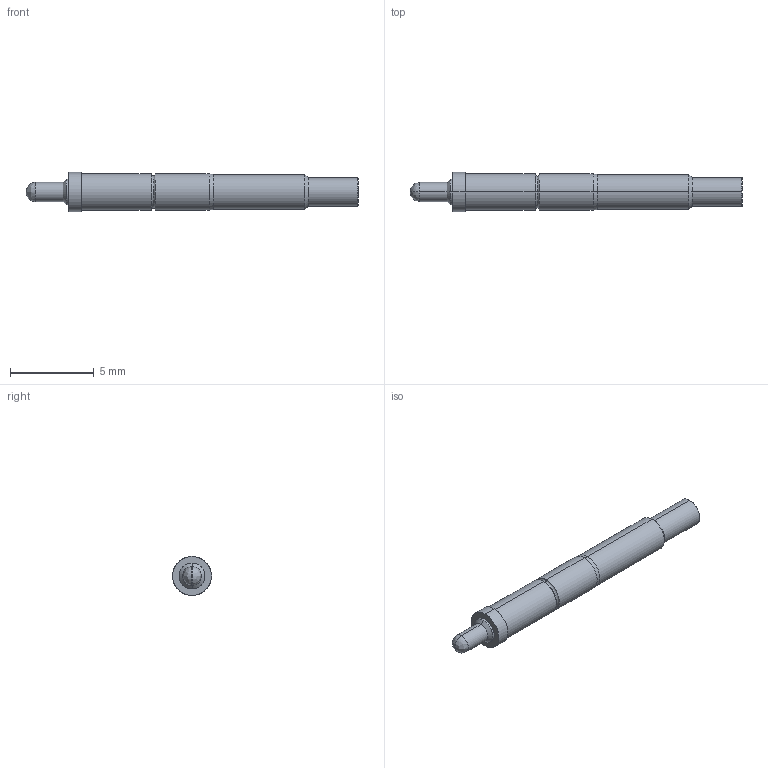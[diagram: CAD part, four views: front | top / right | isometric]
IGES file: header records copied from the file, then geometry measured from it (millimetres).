
Start section: SolidWorks IGES file using analytic representation for surfaces
Global section: file name: O:\PYLON\IGES FILES\F-S\F-S-R.IGS; native system: SolidWorks 2015; preprocessor: SolidWorks 2015; author: kgolden; date: 171024.100605; units: inch
Bounding box: 19.81 x 2.34 x 2.34 mm (x, y, z)
Surface area: 141 mm2 (no closed solid volume)
Topology: 0 solids, 0 shells, 33 faces, 280 edges, 280 vertices
Faces by surface type: revolution 22, bspline 11
